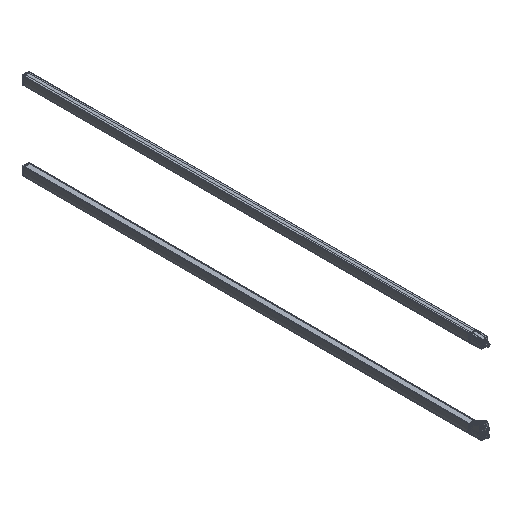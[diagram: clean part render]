
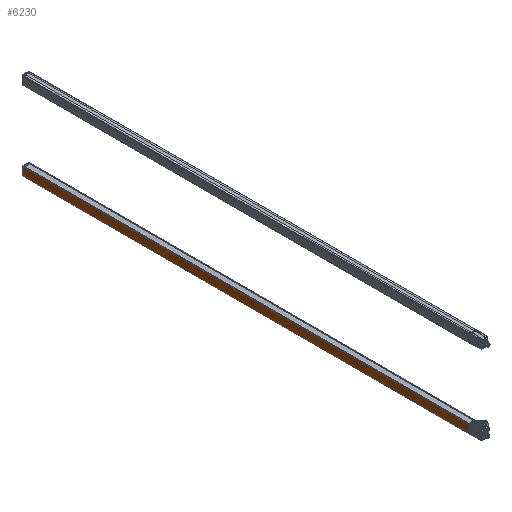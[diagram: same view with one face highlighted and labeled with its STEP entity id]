
A CAD part, isometric view. The second image highlights one B-rep face of the part: STEP entity #6230.
In plain terms, the highlighted cylindrical face has radius 250 mm (diameter 500 mm), a partial arc.
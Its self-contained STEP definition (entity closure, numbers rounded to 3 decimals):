
#5486=CYLINDRICAL_SURFACE('',#62400,250.);
#6230=ADVANCED_FACE('',(#11306),#5486,.T.);
#11306=FACE_OUTER_BOUND('',#14403,.T.);
#14403=EDGE_LOOP('',(#20436,#20437,#20438,#20439));
#18151=CIRCLE('',#62310,250.);
#18198=CIRCLE('',#62399,250.);
#20436=ORIENTED_EDGE('',*,*,#43580,.T.);
#20437=ORIENTED_EDGE('',*,*,#43704,.F.);
#20438=ORIENTED_EDGE('',*,*,#43705,.T.);
#20439=ORIENTED_EDGE('',*,*,#43702,.F.);
#37863=VERTEX_POINT('',#83368);
#37864=VERTEX_POINT('',#83370);
#37945=VERTEX_POINT('',#83614);
#37946=VERTEX_POINT('',#83618);
#43580=EDGE_CURVE('',#37864,#37863,#18151,.T.);
#43702=EDGE_CURVE('',#37864,#37945,#52469,.T.);
#43704=EDGE_CURVE('',#37946,#37863,#52470,.T.);
#43705=EDGE_CURVE('',#37946,#37945,#18198,.T.);
#52469=LINE('',#83613,#57387);
#52470=LINE('',#83617,#57388);
#57387=VECTOR('',#67877,1.);
#57388=VECTOR('',#67882,1.);
#62310=AXIS2_PLACEMENT_3D('',#83369,#67627,#67628);
#62399=AXIS2_PLACEMENT_3D('',#83619,#67883,#67884);
#62400=AXIS2_PLACEMENT_3D('',#83620,#67885,#67886);
#67627=DIRECTION('',(0.,0.,1.));
#67628=DIRECTION('',(-0.998,0.067,0.));
#67877=DIRECTION('',(0.,0.,1.));
#67882=DIRECTION('',(0.,0.,-1.));
#67883=DIRECTION('',(0.,0.,-1.));
#67884=DIRECTION('',(-0.998,0.067,0.));
#67885=DIRECTION('',(0.,0.,-1.));
#67886=DIRECTION('',(0.998,-0.067,0.));
#83368=CARTESIAN_POINT('',(13.731,16.86,-1842.));
#83369=CARTESIAN_POINT('',(-235.7,0.,-1842.));
#83370=CARTESIAN_POINT('',(13.793,-15.907,-1842.));
#83613=CARTESIAN_POINT('',(13.793,-15.907,-452.));
#83614=CARTESIAN_POINT('',(13.793,-15.907,0.));
#83617=CARTESIAN_POINT('',(13.731,16.86,0.));
#83618=CARTESIAN_POINT('',(13.731,16.86,0.));
#83619=CARTESIAN_POINT('',(-235.7,0.,0.));
#83620=CARTESIAN_POINT('',(-235.7,0.,0.));
